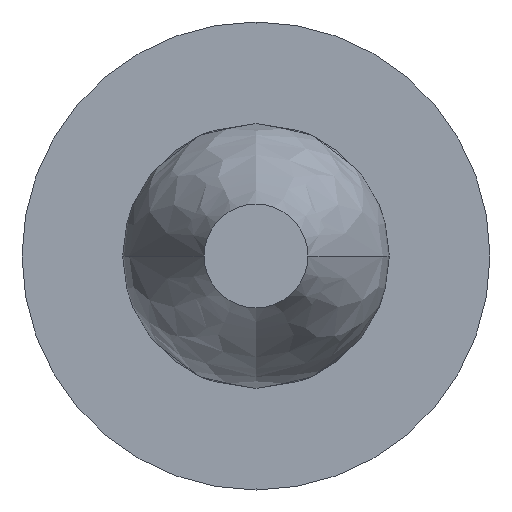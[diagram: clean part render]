
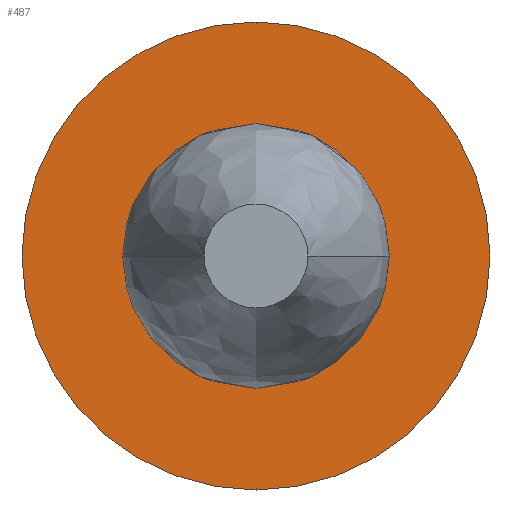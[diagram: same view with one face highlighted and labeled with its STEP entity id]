
A CAD part, front view. The second image highlights one B-rep face of the part: STEP entity #487.
In plain terms, the highlighted planar face has unit normal (0, -1, 0).
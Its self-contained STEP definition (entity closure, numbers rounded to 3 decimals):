
#7 = AXIS2_PLACEMENT_3D ( 'NONE', #690, #31, #764 ) ;
#23 = EDGE_CURVE ( 'NONE', #826, #592, #617, .T. ) ;
#28 = FACE_OUTER_BOUND ( 'NONE', #103, .T. ) ;
#31 = DIRECTION ( 'NONE',  ( 0., -1., 0. ) ) ;
#35 = CARTESIAN_POINT ( 'NONE',  ( 1139.916, 640.04, 0. ) ) ;
#49 = CARTESIAN_POINT ( 'NONE',  ( 1139.916, 640.04, 207.5 ) ) ;
#84 = CARTESIAN_POINT ( 'NONE',  ( 1139.916, 640.04, -207.5 ) ) ;
#103 = EDGE_LOOP ( 'NONE', ( #618, #930 ) ) ;
#119 = ORIENTED_EDGE ( 'NONE', *, *, #668, .F. ) ;
#178 = AXIS2_PLACEMENT_3D ( 'NONE', #894, #384, #238 ) ;
#229 = CIRCLE ( 'NONE', #178, 7.5 ) ;
#238 = DIRECTION ( 'NONE',  ( 0., 0., -1. ) ) ;
#250 = AXIS2_PLACEMENT_3D ( 'NONE', #484, #751, #997 ) ;
#270 = ORIENTED_EDGE ( 'NONE', *, *, #23, .F. ) ;
#345 = CIRCLE ( 'NONE', #978, 207.5 ) ;
#364 = EDGE_CURVE ( 'NONE', #921, #1066, #345, .T. ) ;
#384 = DIRECTION ( 'NONE',  ( 0., -1., 0. ) ) ;
#429 = EDGE_LOOP ( 'NONE', ( #270, #119 ) ) ;
#484 = CARTESIAN_POINT ( 'NONE',  ( 1139.916, 640.04, 0. ) ) ;
#487 = ADVANCED_FACE ( 'NONE', ( #28, #661 ), #770, .T. ) ;
#537 = DIRECTION ( 'NONE',  ( 0., -1., 0. ) ) ;
#591 = DIRECTION ( 'NONE',  ( 0., -1., 0. ) ) ;
#592 = VERTEX_POINT ( 'NONE', #866 ) ;
#617 = CIRCLE ( 'NONE', #807, 7.5 ) ;
#618 = ORIENTED_EDGE ( 'NONE', *, *, #364, .T. ) ;
#634 = DIRECTION ( 'NONE',  ( 0., 0., -1. ) ) ;
#661 = FACE_BOUND ( 'NONE', #429, .T. ) ;
#668 = EDGE_CURVE ( 'NONE', #592, #826, #229, .T. ) ;
#690 = CARTESIAN_POINT ( 'NONE',  ( 1132.416, 640.04, 0. ) ) ;
#728 = EDGE_CURVE ( 'NONE', #1066, #921, #860, .T. ) ;
#751 = DIRECTION ( 'NONE',  ( 0., -1., 0. ) ) ;
#764 = DIRECTION ( 'NONE',  ( 0., 0., -1. ) ) ;
#770 = PLANE ( 'NONE',  #7 ) ;
#789 = CARTESIAN_POINT ( 'NONE',  ( 1139.916, 640.04, 0. ) ) ;
#807 = AXIS2_PLACEMENT_3D ( 'NONE', #789, #537, #634 ) ;
#820 = CARTESIAN_POINT ( 'NONE',  ( 1139.916, 640.04, -7.5 ) ) ;
#826 = VERTEX_POINT ( 'NONE', #820 ) ;
#860 = CIRCLE ( 'NONE', #250, 207.5 ) ;
#866 = CARTESIAN_POINT ( 'NONE',  ( 1139.916, 640.04, 7.5 ) ) ;
#894 = CARTESIAN_POINT ( 'NONE',  ( 1139.916, 640.04, 0. ) ) ;
#921 = VERTEX_POINT ( 'NONE', #84 ) ;
#930 = ORIENTED_EDGE ( 'NONE', *, *, #728, .T. ) ;
#978 = AXIS2_PLACEMENT_3D ( 'NONE', #35, #591, #1038 ) ;
#997 = DIRECTION ( 'NONE',  ( 0., 0., -1. ) ) ;
#1038 = DIRECTION ( 'NONE',  ( 0., 0., -1. ) ) ;
#1066 = VERTEX_POINT ( 'NONE', #49 ) ;
